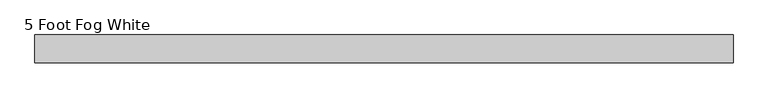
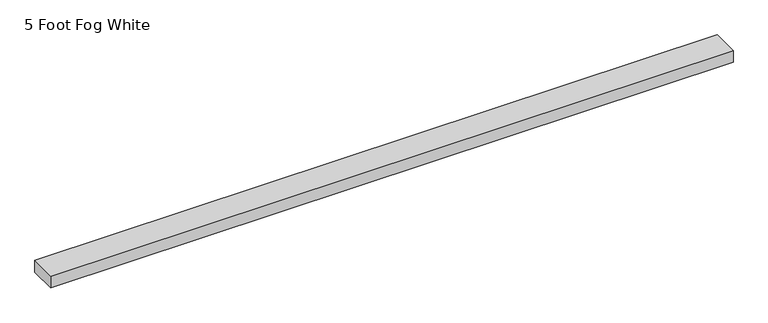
"""IFC4 building model written with IfcOpenShell, lengths in millimetres: proxy geometry, Raceway-2400_Series-Wiremold-Steel : 5 Foot Fog White."""

from ifc_helpers import new_model, si_unit, origin, origin_with_axes, place, context, project, spatial, polyline, outline, extrude, source, transform, mapped, element, save


def proxy_5_foot_fog_white_07b1bb4c(model_context):
    return source(origin(), model_context, "Body", "SweptSolid", [
        extrude(outline(polyline([(1209.675, 24.2062), (1209.675, -24.2062), (0.0, -24.2062), (0.0, 24.2062), (1209.675, 24.2062)])), origin_with_axes(), (0.0, 0.0, 1.0), 22.225),
    ])


if __name__ == "__main__":
    model = new_model("IFC4")
    model_context = context("Model", 3, world=origin())
    ifc_project = project(units=[si_unit("LENGTHUNIT", "METRE", prefix="MILLI")], contexts=[model_context])
    site = spatial("IfcSite", under=ifc_project)
    building = spatial("IfcBuilding", under=site)
    placement = place(None, origin())
    proxy_5_foot_fog_white_shape = proxy_5_foot_fog_white_07b1bb4c(model_context)
    element("IfcBuildingElementProxy", 1, Name="Raceway-2400_Series-Wiremold-Steel : 5 Foot Fog White", ObjectType="Raceway-2400_Series-Wiremold-Steel : 5 Foot Fog White", at=placement, inside=building, context=model_context, shape_type="MappedRepresentation", body=[
        mapped(proxy_5_foot_fog_white_shape, transform((0.0, 0.0, 0.0), x_axis=(1.0, 0.0, 0.0), y_axis=(0.0, 1.0, 0.0), z_axis=(0.0, 0.0, 1.0))),
    ])
    save(model, "model.ifc")
